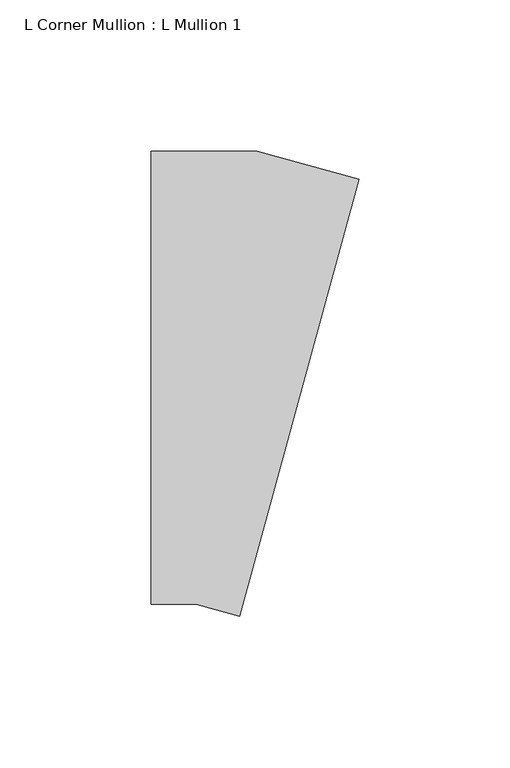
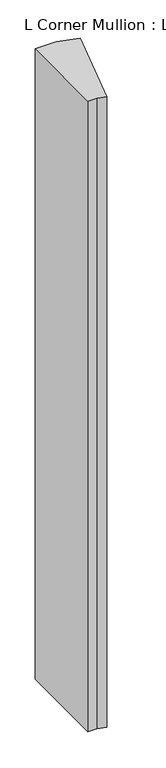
"""IFC4 building model written with IfcOpenShell, lengths in millimetres: member geometry, L Corner Mullion : L Mullion 1."""

from ifc_helpers import new_model, si_unit, frame, origin, place, context, project, spatial, polyline, outline, extrude, source, transform, mapped, element, save


def l_corner_mullion_l_mullion_1_df477156(model_context):
    return source(origin(), model_context, "Body", "SweptSolid", [
        extrude(outline(polyline([(4.3210695, -78.9387633), (-10.0749139, -75.0), (-25.0, -75.0), (-25.0, 75.0), (10.0749139, 75.0), (43.9064024, 65.7436524), (4.3210695, -78.9387633)])), frame((0.0, 0.0, -1098.0477692), z_axis=(0.0, 0.0, 1.0), x_axis=(1.0, 0.0, 0.0)), (0.0, 0.0, 1.0), 1098.0477692),
    ])


if __name__ == "__main__":
    model = new_model("IFC4")
    model_context = context("Model", 3, world=origin())
    ifc_project = project(units=[si_unit("LENGTHUNIT", "METRE", prefix="MILLI")], contexts=[model_context])
    site = spatial("IfcSite", under=ifc_project)
    building = spatial("IfcBuilding", under=site)
    placement = place(None, origin())
    l_corner_mullion_l_mullion_1_shape = l_corner_mullion_l_mullion_1_df477156(model_context)
    element("IfcMember", 1, ObjectType="L Corner Mullion : L Mullion 1", at=placement, inside=building, context=model_context, shape_type="MappedRepresentation", body=[
        mapped(l_corner_mullion_l_mullion_1_shape, transform((0.0, 0.0, 0.0), x_axis=(1.0, 0.0, 0.0), y_axis=(0.0, 1.0, 0.0), z_axis=(0.0, 0.0, 1.0))),
    ])
    save(model, "model.ifc")
